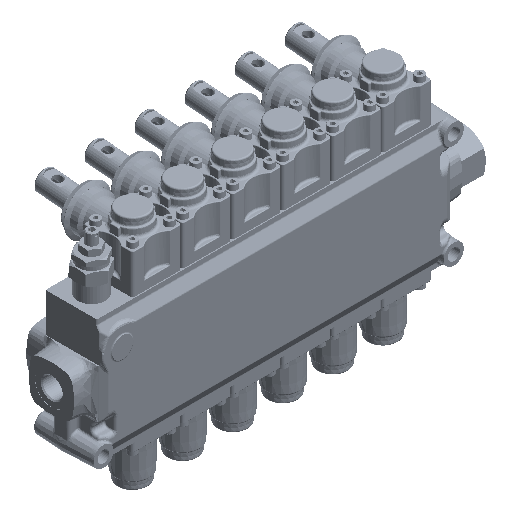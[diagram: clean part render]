
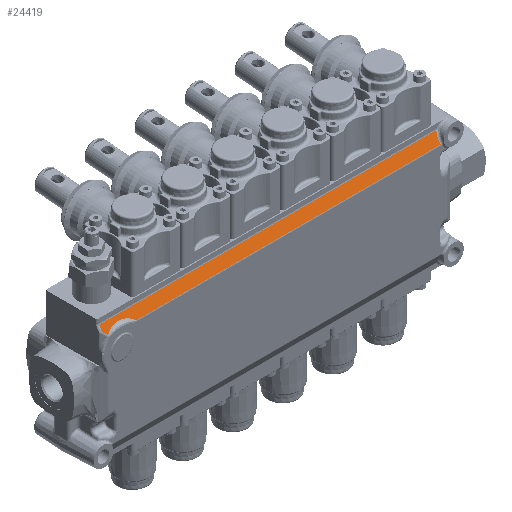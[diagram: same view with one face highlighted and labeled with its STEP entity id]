
A CAD part, isometric view. The second image highlights one B-rep face of the part: STEP entity #24419.
In plain terms, the highlighted planar face has unit normal (0, -0.866, 0.5) as drawn and (0.5, -0.866, 0) by its records, which use the part's own axes.
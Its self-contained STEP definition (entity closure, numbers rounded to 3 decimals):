
#528 = CARTESIAN_POINT ( 'NONE',  ( 37.077, -23.378, 41.683 ) ) ;
#3542 = LINE ( 'NONE', #42800, #64926 ) ;
#4064 = AXIS2_PLACEMENT_3D ( 'NONE', #19395, #35645, #80227 ) ;
#6925 = CARTESIAN_POINT ( 'NONE',  ( 37.724, -23.005, 41.064 ) ) ;
#7351 = CARTESIAN_POINT ( 'NONE',  ( 40.813, -21.221, 26.02 ) ) ;
#8180 = ORIENTED_EDGE ( 'NONE', *, *, #16787, .T. ) ;
#8523 = CARTESIAN_POINT ( 'NONE',  ( -65.016, -82.322, -60.016 ) ) ;
#10112 = VERTEX_POINT ( 'NONE', #44842 ) ;
#10204 = EDGE_CURVE ( 'NONE', #59754, #37687, #30620, .T. ) ;
#16787 = EDGE_CURVE ( 'NONE', #91623, #74178, #3542, .T. ) ;
#19395 = CARTESIAN_POINT ( 'NONE',  ( 36., -24., -194.704 ) ) ;
#19590 = CARTESIAN_POINT ( 'NONE',  ( 43.446, -19.701, -211.036 ) ) ;
#21194 = ORIENTED_EDGE ( 'NONE', *, *, #76073, .T. ) ;
#22154 = CARTESIAN_POINT ( 'NONE',  ( 38.443, -22.59, 40.097 ) ) ;
#23115 = CARTESIAN_POINT ( 'NONE',  ( 37.304, -23.247, 41.49 ) ) ;
#24419 = ADVANCED_FACE ( 'NONE', ( #86619 ), #58179, .T. ) ;
#25032 = CARTESIAN_POINT ( 'NONE',  ( 36.348, -23.799, -210.245 ) ) ;
#26540 = CARTESIAN_POINT ( 'NONE',  ( 40., -21.691, 45. ) ) ;
#28355 = CARTESIAN_POINT ( 'NONE',  ( 39., -22.268, 38.982 ) ) ;
#28397 = ORIENTED_EDGE ( 'NONE', *, *, #90326, .T. ) ;
#29015 = CARTESIAN_POINT ( 'NONE',  ( 41.8, -20.651, 32.766 ) ) ;
#30620 = LINE ( 'NONE', #31600, #33965 ) ;
#30897 = B_SPLINE_CURVE_WITH_KNOTS ( 'NONE', 3,
 ( #68254, #528, #23115, #6925, #89347, #22154, #75123, #36917 ),
 .UNSPECIFIED., .F., .F.,
 ( 4, 2, 2, 4 ),
 ( 0., 0.001, 0.002, 0.004 ),
 .UNSPECIFIED. ) ;
#31600 = CARTESIAN_POINT ( 'NONE',  ( 43.446, -19.701, 45. ) ) ;
#33965 = VECTOR ( 'NONE', #46275, 1000. ) ;
#35645 = DIRECTION ( 'NONE',  ( 0.5, -0.866, 0. ) ) ;
#36917 = CARTESIAN_POINT ( 'NONE',  ( 39., -22.268, 38.982 ) ) ;
#37687 = VERTEX_POINT ( 'NONE', #72300 ) ;
#42404 =( BOUNDED_CURVE ( )  B_SPLINE_CURVE ( 3, ( #59428, #29015, #7351, #96187 ),
 .UNSPECIFIED., .F., .T. ) 
 B_SPLINE_CURVE_WITH_KNOTS ( ( 4, 4 ),
 ( 2.718, 3.856 ),
 .UNSPECIFIED. ) 
 CURVE ( )  GEOMETRIC_REPRESENTATION_ITEM ( )  RATIONAL_B_SPLINE_CURVE ( ( 1., 0.895, 0.895, 1. ) ) 
 REPRESENTATION_ITEM ( '' )  );
#42800 = CARTESIAN_POINT ( 'NONE',  ( 36.348, -23.799, -194.704 ) ) ;
#43340 = VECTOR ( 'NONE', #55883, 1000. ) ;
#43668 = CARTESIAN_POINT ( 'NONE',  ( 43.446, -19.701, -211.036 ) ) ;
#44842 = CARTESIAN_POINT ( 'NONE',  ( 36.826, -23.523, 41.826 ) ) ;
#45986 = ORIENTED_EDGE ( 'NONE', *, *, #50870, .T. ) ;
#46275 = DIRECTION ( 'NONE',  ( 0., 0., 1. ) ) ;
#49384 = ORIENTED_EDGE ( 'NONE', *, *, #87695, .T. ) ;
#50870 = EDGE_CURVE ( 'NONE', #96904, #91623, #42404, .T. ) ;
#55883 = DIRECTION ( 'NONE',  ( -0.866, -0.5, 0. ) ) ;
#56269 = CARTESIAN_POINT ( 'NONE',  ( 36.348, -23.799, 20.868 ) ) ;
#58179 = PLANE ( 'NONE',  #4064 ) ;
#59428 = CARTESIAN_POINT ( 'NONE',  ( 39., -22.268, 38.982 ) ) ;
#59539 = VERTEX_POINT ( 'NONE', #26540 ) ;
#59754 = VERTEX_POINT ( 'NONE', #43668 ) ;
#64926 = VECTOR ( 'NONE', #79615, 1000. ) ;
#67448 = DIRECTION ( 'NONE',  ( -0.655, -0.378, -0.655 ) ) ;
#68254 = CARTESIAN_POINT ( 'NONE',  ( 36.826, -23.523, 41.826 ) ) ;
#71411 = EDGE_CURVE ( 'NONE', #74178, #59754, #87258, .T. ) ;
#72300 = CARTESIAN_POINT ( 'NONE',  ( 43.446, -19.701, 45. ) ) ;
#73198 = EDGE_LOOP ( 'NONE', ( #8180, #96793, #78421, #28397, #49384, #21194, #45986 ) ) ;
#74033 = CARTESIAN_POINT ( 'NONE',  ( 38.757, -22.408, -209.525 ) ) ;
#74178 = VERTEX_POINT ( 'NONE', #25032 ) ;
#75123 = CARTESIAN_POINT ( 'NONE',  ( 38.743, -22.416, 39.553 ) ) ;
#76073 = EDGE_CURVE ( 'NONE', #10112, #96904, #30897, .T. ) ;
#78421 = ORIENTED_EDGE ( 'NONE', *, *, #10204, .T. ) ;
#78931 = CARTESIAN_POINT ( 'NONE',  ( 41., -21.113, 45. ) ) ;
#79461 = CARTESIAN_POINT ( 'NONE',  ( 41.255, -20.966, -209.804 ) ) ;
#79615 = DIRECTION ( 'NONE',  ( 0., 0., -1. ) ) ;
#80227 = DIRECTION ( 'NONE',  ( 0.866, 0.5, 0. ) ) ;
#86619 = FACE_OUTER_BOUND ( 'NONE', #73198, .T. ) ;
#87258 =( BOUNDED_CURVE ( )  B_SPLINE_CURVE ( 3, ( #96109, #74033, #79461, #19590 ),
 .UNSPECIFIED., .F., .T. ) 
 B_SPLINE_CURVE_WITH_KNOTS ( ( 4, 4 ),
 ( 4.422, 5.225 ),
 .UNSPECIFIED. ) 
 CURVE ( )  GEOMETRIC_REPRESENTATION_ITEM ( )  RATIONAL_B_SPLINE_CURVE ( ( 1., 0.947, 0.947, 1. ) ) 
 REPRESENTATION_ITEM ( '' )  );
#87695 = EDGE_CURVE ( 'NONE', #59539, #10112, #91426, .T. ) ;
#89347 = CARTESIAN_POINT ( 'NONE',  ( 37.914, -22.895, 40.832 ) ) ;
#90326 = EDGE_CURVE ( 'NONE', #37687, #59539, #94143, .T. ) ;
#91426 = LINE ( 'NONE', #8523, #94666 ) ;
#91623 = VERTEX_POINT ( 'NONE', #56269 ) ;
#94143 = LINE ( 'NONE', #78931, #43340 ) ;
#94666 = VECTOR ( 'NONE', #67448, 1000. ) ;
#96109 = CARTESIAN_POINT ( 'NONE',  ( 36.348, -23.799, -210.245 ) ) ;
#96187 = CARTESIAN_POINT ( 'NONE',  ( 36.348, -23.799, 20.868 ) ) ;
#96793 = ORIENTED_EDGE ( 'NONE', *, *, #71411, .T. ) ;
#96904 = VERTEX_POINT ( 'NONE', #28355 ) ;
